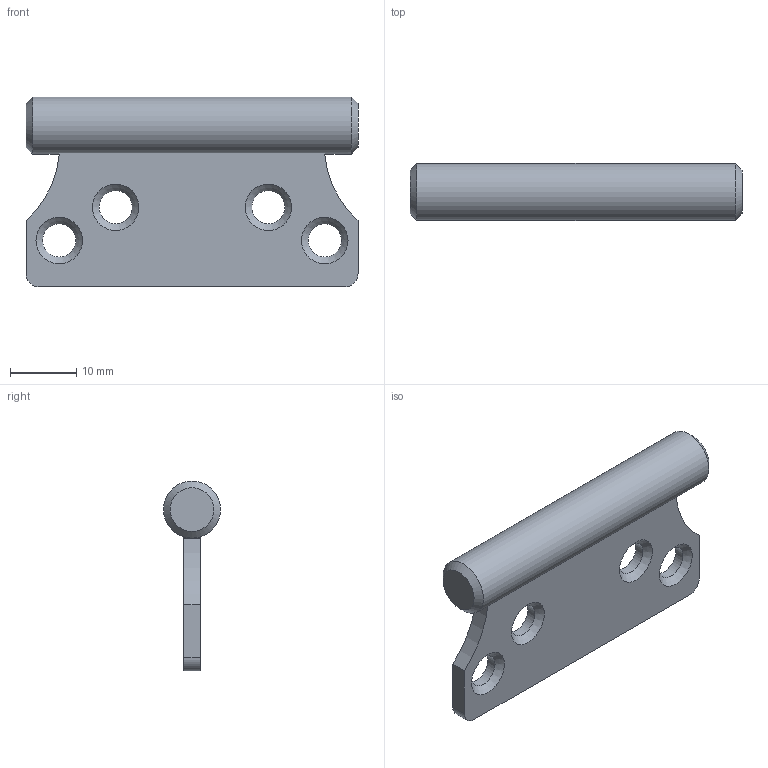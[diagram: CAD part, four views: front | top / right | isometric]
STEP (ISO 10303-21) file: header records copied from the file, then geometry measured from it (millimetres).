
FILE_DESCRIPTION(/* description */ ('Дверные петли 01'),/* implementation_level */ '2;1');
FILE_NAME(/* name */ 'D:\мои документы\Ирина\ЧЭнК\Конкурсы и олимпиады\WSR\WSR Задания разные\2016_11 Южный Урал\Day_2 - чертежи задание и критерии\Участнику\Детали и подсборки\Дверные петли 01.stp',/* time_stamp */ '2016-10-25T23:35:03+05:00',/* author */ ('Дом'),/* organization */ (''),/* preprocessor_version */ 'ST-DEVELOPER v16.5',/* originating_system */ 'Autodesk Inventor 2017',/* authorisation */ '');
FILE_SCHEMA (('AUTOMOTIVE_DESIGN { 1 0 10303 214 3 1 1 }'));
Length unit declared in the file: millimetre
Products named in the file (1): 2016.011.002.002
Bounding box: 50 x 8.6 x 28.6 mm (x, y, z)
Volume: 4983.8 mm3; surface area: 3407 mm2
Topology: 1 solids, 1 shells, 26 faces, 61 edges, 38 vertices
Faces by surface type: plane 11, cylinder 9, cone 6
Full cylindrical faces by diameter (mm): 5 x4, 8.6 x1
Entity records: 734 total; most frequent: DIRECTION 132, CARTESIAN_POINT 115, ORIENTED_EDGE 100, AXIS2_PLACEMENT_3D 55, EDGE_CURVE 50, EDGE_LOOP 46, VERTEX_POINT 38, CIRCLE 28
